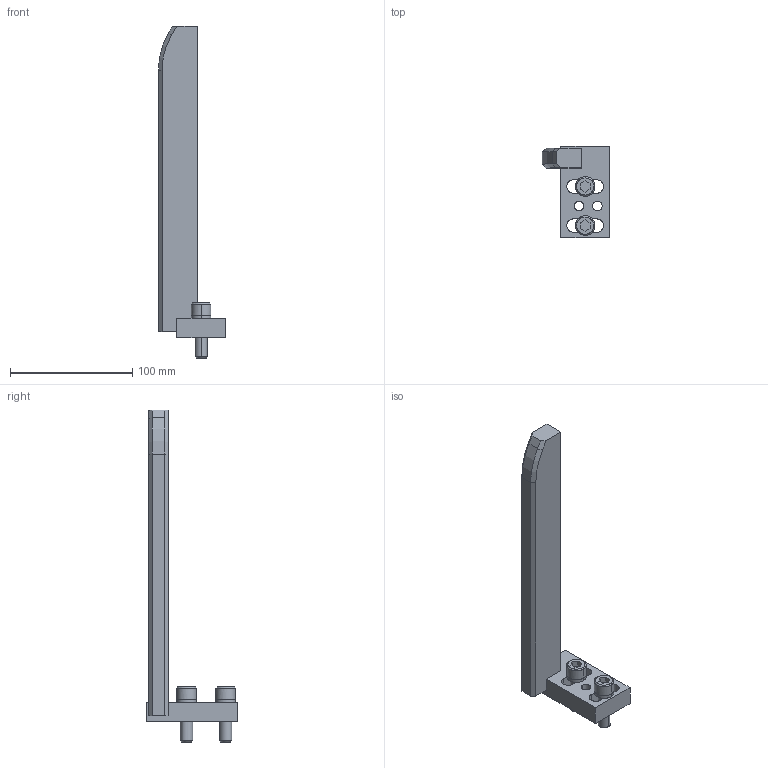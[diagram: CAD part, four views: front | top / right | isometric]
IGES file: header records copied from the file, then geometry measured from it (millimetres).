
Global section: file name: E:\UnigraphicsGraphicData\MISUMI_PRESS-PARTS\IGES\3d_ngnbr-255-20-m10_01557_r00.igs; native system: NX V5.0; preprocessor: UGS NX IGES V5.0; author: MISUMI; date: 20110105.162100; units: millimetre
Bounding box: 55 x 75 x 271.5 mm (x, y, z)
Surface area: 40925.7 mm2 (no closed solid volume)
Topology: 0 solids, 0 shells, 104 faces, 664 edges, 664 vertices
Faces by surface type: bspline 104
